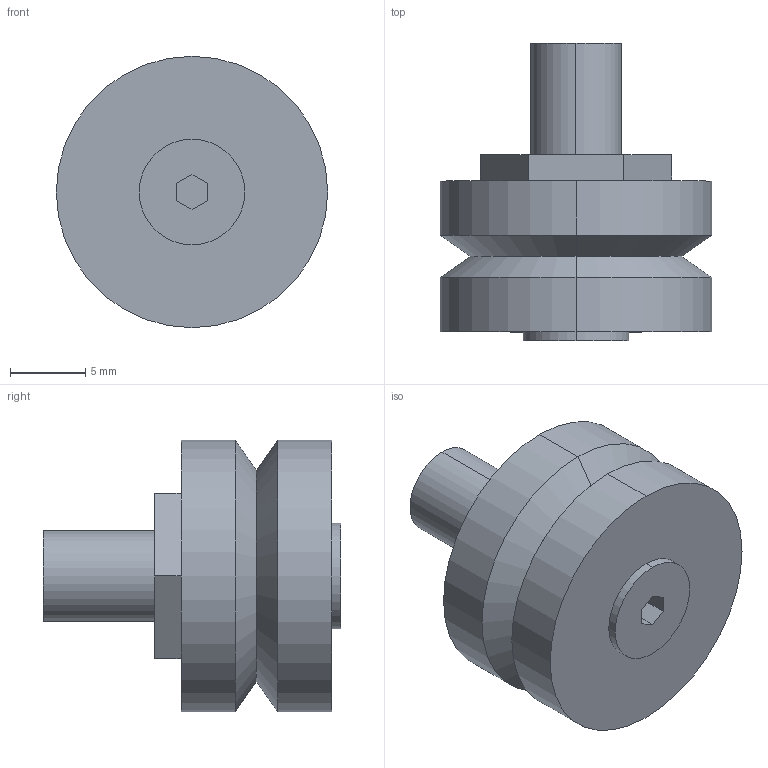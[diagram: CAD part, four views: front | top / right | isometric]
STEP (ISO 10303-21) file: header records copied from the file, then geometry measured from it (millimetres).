
FILE_DESCRIPTION(('STEP AP203'),'1');
FILE_NAME('bhj_18_c_ns.stp','2021-09-29T05:28:47',('TraceParts'),('TraceParts S.A.'),'Spatial InterOp 3D',' ',' ');
FILE_SCHEMA(('CONFIG_CONTROL_DESIGN'));
Length unit declared in the file: millimetre
Products named in the file (1): 1
Bounding box: 18 x 19.75 x 18 mm (x, y, z)
Volume: 2806.8 mm3; surface area: 1394.7 mm2
Topology: 1 solids, 1 shells, 30 faces, 66 edges, 42 vertices
Faces by surface type: plane 18, cylinder 8, cone 4
Entity records: 864 total; most frequent: DIRECTION 146, CARTESIAN_POINT 139, ORIENTED_EDGE 132, EDGE_CURVE 66, AXIS2_PLACEMENT_3D 49, LINE 48, VECTOR 48, VERTEX_POINT 42
